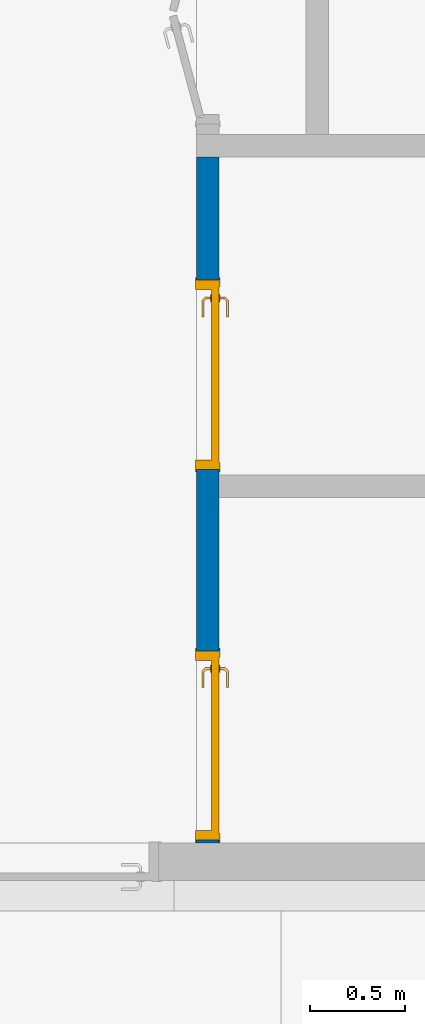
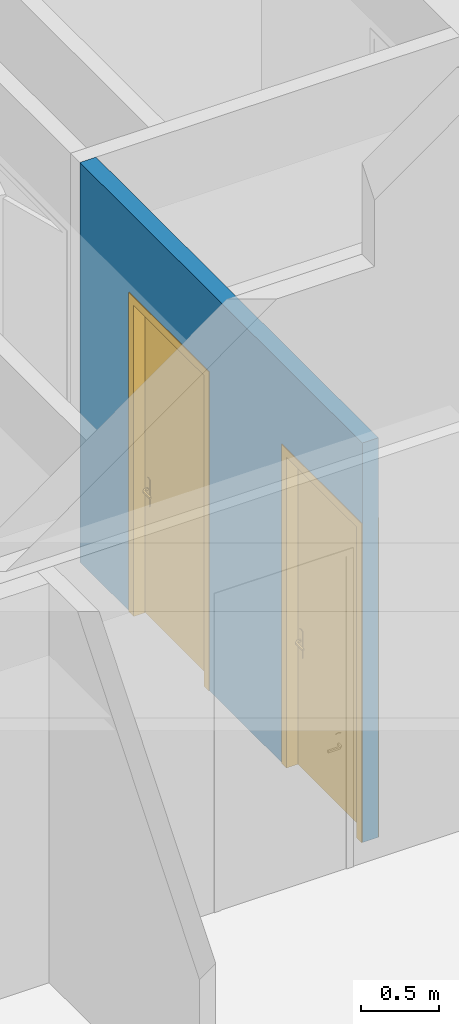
# One storey, part 85 of 240: 2 doors, 1 wall, 2 openings.
"""IFC2X3 building model written with IfcOpenShell, lengths in centimetres."""

from ifc_helpers import new_model, entity, si_unit, converted_unit, derived_unit, direction, frame, frame_2d, origin, place, context, subcontext, project, spatial, rectangle, extrude, faceted_brep, source, transform, mapped, material, material_list, layer, layer_set, layer_usage, type_object, type_shapes, element, fill, save


model = new_model("IFC2X3")

# Units and contexts
model_context = context("Model", 3, precision=0.001, world=origin(), true_north=direction((6.12303176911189e-17, 1.0)))
body_context = subcontext(model_context, "Body", "Model", "MODEL_VIEW")
ifc_project = project(units=[si_unit("LENGTHUNIT", "METRE", prefix="CENTI"), si_unit("AREAUNIT", "SQUARE_METRE"), si_unit("VOLUMEUNIT", "CUBIC_METRE"), converted_unit("PLANEANGLEUNIT", "DEGREE", entity("IfcRatioMeasure", 0.0174532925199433), si_unit("PLANEANGLEUNIT", "RADIAN"), dimensions=[0, 0, 0, 0, 0, 0, 0]), si_unit("MASSUNIT", "GRAM", prefix="KILO"), derived_unit("MASSDENSITYUNIT", [(si_unit("MASSUNIT", "GRAM", prefix="KILO"), 1), (si_unit("LENGTHUNIT", "METRE"), -3)]), si_unit("TIMEUNIT", "SECOND"), si_unit("FREQUENCYUNIT", "HERTZ"), si_unit("THERMODYNAMICTEMPERATUREUNIT", "DEGREE_CELSIUS"), derived_unit("THERMALTRANSMITTANCEUNIT", [(si_unit("MASSUNIT", "GRAM", prefix="KILO"), 1), (si_unit("THERMODYNAMICTEMPERATUREUNIT", "KELVIN"), -1), (si_unit("TIMEUNIT", "SECOND"), -3)]), derived_unit("VOLUMETRICFLOWRATEUNIT", [(si_unit("LENGTHUNIT", "METRE"), 3), (si_unit("TIMEUNIT", "SECOND"), -1)]), si_unit("ELECTRICCURRENTUNIT", "AMPERE"), si_unit("ELECTRICVOLTAGEUNIT", "VOLT"), si_unit("POWERUNIT", "WATT"), si_unit("FORCEUNIT", "NEWTON", prefix="KILO"), si_unit("ILLUMINANCEUNIT", "LUX"), si_unit("LUMINOUSFLUXUNIT", "LUMEN"), si_unit("LUMINOUSINTENSITYUNIT", "CANDELA"), derived_unit("USERDEFINED", [(si_unit("MASSUNIT", "GRAM", prefix="KILO"), -1), (si_unit("LENGTHUNIT", "METRE"), -2), (si_unit("TIMEUNIT", "SECOND"), 3), (si_unit("LUMINOUSFLUXUNIT", "LUMEN"), 1)]), derived_unit("LINEARVELOCITYUNIT", [(si_unit("LENGTHUNIT", "METRE"), 1), (si_unit("TIMEUNIT", "SECOND"), -1)]), si_unit("PRESSUREUNIT", "PASCAL"), derived_unit("USERDEFINED", [(si_unit("LENGTHUNIT", "METRE"), -2), (si_unit("MASSUNIT", "GRAM", prefix="KILO"), 1), (si_unit("TIMEUNIT", "SECOND"), -2)])], contexts=[model_context])

# Site, building, storey
site_placement = place(None, frame((-2781.94577612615, 7442.24238424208, 0.0)))
site = spatial("IfcSite", under=ifc_project, at=site_placement, Name="Default", CompositionType="ELEMENT")
building_placement = place(site_placement, origin())
building = spatial("IfcBuilding", under=site, at=building_placement, CompositionType="ELEMENT")
storey_placement = place(building_placement, origin())
storey = spatial("IfcBuildingStorey", under=building, at=storey_placement, Name="N00 - COO", CompositionType="ELEMENT", Elevation=0.0)

# Wall, openings, doors
ifc_material_1 = material(Name="01 - Enduit/Plâtre")
ifc_layer_1 = layer(ifc_material_1, 1.0)
ifc_material_2 = material(Name="Maçonnerie - Béton")
ifc_layer_2 = layer(ifc_material_2, 10.0)
ifc_layer_3 = layer(ifc_material_1, 1.0)
ifc_layer_set = layer_set([ifc_layer_1, ifc_layer_2, ifc_layer_3], Name="Mur de base:06 - cloisons - agglos10 + faïence 12cm")
ifc_layer_usage = layer_usage(ifc_layer_set, "AXIS2", "NEGATIVE", 6.0)
wall_type = type_object("IfcWallType", Name="Mur de base:06 - cloisons - agglos10 + faïence 12cm", PredefinedType="STANDARD", material=ifc_layer_set)
wall_placement = place(building_placement, frame((-10470.6130476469, -2990.07903364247, 0.0), z_axis=(0.0, 0.0, 1.0), x_axis=(0.0, -1.0, 0.0)))
wall = element("IfcWallStandardCase", 1, at=wall_placement, inside=storey, type_object=wall_type, material=ifc_layer_usage, Name="Mur de base:06 - cloisons - agglos10 + faïence 12cm", ObjectType="Mur de base:06 - cloisons - agglos10 + faïence 12cm", context=body_context, shape_type="SweptSolid", body=[
    extrude(rectangle(XDim=362.442772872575, YDim=12.0000000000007, at=frame_2d((181.221386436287, -2.8244073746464e-13), x_axis=(-1.0, 0.0))), origin(), (0.0, 0.0, 1.0), 313.0),
])
opening_1_placement = place(wall_placement, frame((65.0, -6.0, 0.0)))
opening_1 = element("IfcOpeningElement", 2, at=opening_1_placement, cuts=wall, Name="Int. Simple:PP simple (0.93m x 2.50m):1", ObjectType="Opening", context=body_context, shape_type="SweptSolid", body=[
    extrude(rectangle(XDim=248.500000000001, YDim=99.9999999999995, at=frame_2d((124.250000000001, 49.9999999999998), x_axis=(1.0, 0.0))), frame((0.0, 0.0, 0.0), z_axis=(0.0, 1.0, 0.0), x_axis=(0.0, 0.0, 1.0)), (0.0, 0.0, 1.0), 12.0),
])
opening_2_placement = place(wall_placement, frame((260.942772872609, -6.0, 0.0)))
opening_2 = element("IfcOpeningElement", 3, at=opening_2_placement, cuts=wall, Name="Int. Simple:PP simple (0.93m x 2.50m):1", ObjectType="Opening", context=body_context, shape_type="SweptSolid", body=[
    extrude(rectangle(XDim=248.500000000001, YDim=99.9999999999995, at=frame_2d((124.250000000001, 49.9999999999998), x_axis=(1.0, 0.0))), frame((0.0, 0.0, 0.0), z_axis=(0.0, 1.0, 0.0), x_axis=(0.0, 0.0, 1.0)), (0.0, 0.0, 1.0), 12.0),
])
ifc_material_3 = material(Name="Finition Peinture - Blanc satiné")
ifc_material_4 = material(Name="Bois - Panneau de porte")
ifc_material_5 = material(Name="Bois - Cadre de porte")
ifc_material_list_1 = material_list([ifc_material_3, ifc_material_4, ifc_material_5])
ifc_material_list_2 = material_list([ifc_material_3, ifc_material_4, ifc_material_5])
door_style = type_object("IfcDoorStyle", Name="PP simple (0.93m x 2.50m)", ConstructionType="NOTDEFINED", OperationType="SINGLE_SWING_RIGHT", ParameterTakesPrecedence=False, Sizeable=False, material=ifc_material_list_2)
shared_shape = source(origin(), body_context, "Body", "Brep", [
    faceted_brep([(99.5000000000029, -0.500000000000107, 87.0), (99.5000000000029, -0.500000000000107, 108.0), (98.535276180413, -0.500000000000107, 108.399601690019), (97.5000000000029, -0.500000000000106, 108.535898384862), (96.4647238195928, -0.500000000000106, 108.399601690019), (95.500000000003, -0.500000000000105, 108.0), (95.5000000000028, -0.500000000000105, 87.0), (96.4647238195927, -0.500000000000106, 86.6003983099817), (97.5000000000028, -0.500000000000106, 86.464101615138), (98.5352761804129, -0.500000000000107, 86.6003983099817), (99.5000000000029, 0.0, 108.0), (99.5000000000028, 0.0, 87.0), (98.5352761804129, 0.0, 86.6003983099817), (97.5000000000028, 0.0, 86.464101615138), (96.4647238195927, 0.0, 86.6003983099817), (95.5000000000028, 0.0, 87.0), (95.5000000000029, 0.0, 108.0), (96.4647238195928, 0.0, 108.399601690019), (97.5000000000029, 0.0, 108.535898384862), (98.535276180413, 0.0, 108.399601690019)], [[[0, 1, 2, 3, 4, 5, 6, 7, 8, 9]], [[10, 11, 12, 13, 14, 15, 16, 17, 18, 19]], [[9, 12, 11, 0]], [[8, 13, 12, 9]], [[7, 14, 13, 8]], [[7, 6, 15, 14]], [[15, 6, 5, 16]], [[4, 17, 16, 5]], [[3, 18, 17, 4]], [[2, 19, 18, 3]], [[2, 1, 10, 19]], [[11, 10, 1, 0]]]),
    faceted_brep([(99.5000000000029, 4.0, 87.0), (99.5000000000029, 4.0, 108.0), (98.535276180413, 4.0, 108.399601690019), (97.5000000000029, 4.0, 108.535898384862), (96.4647238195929, 4.0, 108.399601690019), (95.500000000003, 4.0, 108.0), (95.5000000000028, 4.0, 87.0), (96.4647238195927, 4.0, 86.6003983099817), (97.5000000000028, 4.0, 86.464101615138), (98.5352761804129, 4.0, 86.6003983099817), (97.5000000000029, 4.49999999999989, 108.535898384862), (98.535276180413, 4.49999999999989, 108.399601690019), (99.5000000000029, 4.49999999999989, 108.0), (99.5000000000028, 4.49999999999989, 87.0), (98.5352761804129, 4.49999999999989, 86.6003983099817), (97.5000000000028, 4.49999999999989, 86.464101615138), (96.4647238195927, 4.49999999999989, 86.6003983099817), (95.5000000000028, 4.49999999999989, 87.0), (95.500000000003, 4.49999999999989, 108.0), (96.4647238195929, 4.49999999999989, 108.399601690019)], [[[0, 1, 2, 3, 4, 5, 6, 7, 8, 9]], [[10, 11, 12, 13, 14, 15, 16, 17, 18, 19]], [[4, 19, 18, 5]], [[3, 10, 19, 4]], [[2, 11, 10, 3]], [[2, 1, 12, 11]], [[13, 12, 1, 0]], [[9, 14, 13, 0]], [[8, 15, 14, 9]], [[7, 16, 15, 8]], [[7, 6, 17, 16]], [[17, 6, 5, 18]]]),
    faceted_brep([(97.2974701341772, -0.500000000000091, 100.778044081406), (97.7025298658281, -0.500000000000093, 100.778044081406), (98.1000000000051, -0.500000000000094, 100.699999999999), (98.100000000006, -0.500000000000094, 99.2999999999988), (97.7025298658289, -0.500000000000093, 99.221955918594), (97.297470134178, -0.500000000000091, 99.2219559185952), (96.9000000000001, -0.500000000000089, 99.3000000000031), (96.9000000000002, -0.500000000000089, 100.7), (97.7025298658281, -3.10045754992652, 100.778044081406), (98.1000000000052, -3.26509507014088, 100.7), (97.2974701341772, -2.93267631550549, 100.778044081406), (95.9298602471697, -4.30028620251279, 100.778044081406), (96.0976414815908, -4.70534593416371, 100.778044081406), (96.9000000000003, -2.76803879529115, 100.7), (96.9000000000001, -2.76803879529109, 99.3000000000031), (97.297470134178, -2.93267631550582, 99.2219559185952), (97.7025298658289, -3.10045754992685, 99.221955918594), (96.0976414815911, -4.7053459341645, 99.221955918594), (95.9298602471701, -4.30028620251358, 99.2219559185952), (98.100000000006, -3.26509507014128, 99.2999999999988), (96.2622790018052, -5.10281606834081, 100.7), (95.7652227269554, -3.90281606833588, 100.7), (95.7652227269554, -3.90281606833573, 99.3000000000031), (96.2622790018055, -5.10281606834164, 99.2999999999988), (87.4981359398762, -5.10281606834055, 100.7), (87.4981359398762, -4.70534593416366, 100.778044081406), (87.4981359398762, -4.30028620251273, 100.778044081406), (87.4981359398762, -3.90281606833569, 100.699999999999), (87.4981359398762, -3.90281606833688, 99.3000000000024), (87.4981359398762, -4.30028620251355, 99.2219559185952), (87.4981359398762, -4.70534593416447, 99.221955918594), (87.4981359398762, -5.10281606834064, 99.2999999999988), (91.7139980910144, -4.5028160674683, 100.78786867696), (92.2692302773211, -5.1028160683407, 100.7), (91.6316793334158, -3.9028160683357, 100.7), (91.631679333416, -3.9028160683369, 99.3000000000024), (91.7139981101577, -4.50281607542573, 99.2121313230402), (92.2692310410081, -5.10281606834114, 99.2999999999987)], [[[0, 1, 2, 3, 4, 5, 6, 7]], [[2, 1, 8, 9]], [[1, 0, 10, 11, 12, 8]], [[0, 7, 13, 10]], [[14, 13, 7, 6]], [[5, 15, 14, 6]], [[5, 4, 16, 17, 18, 15]], [[3, 19, 16, 4]], [[9, 19, 3, 2]], [[9, 8, 12, 20]], [[10, 13, 21, 11]], [[22, 21, 13, 14]], [[14, 15, 18, 22]], [[16, 19, 23, 17]], [[20, 23, 19, 9]], [[24, 25, 26, 27, 28, 29, 30, 31]], [[32, 25, 33]], [[33, 25, 24]], [[33, 20, 12]], [[11, 34, 32]], [[34, 11, 21]], [[27, 26, 34]], [[32, 26, 25]], [[32, 34, 26]], [[32, 33, 12]], [[11, 32, 12]], [[21, 22, 35, 28, 27, 34]], [[36, 29, 35]], [[30, 36, 37]], [[18, 35, 22]], [[29, 28, 35]], [[30, 37, 31]], [[37, 17, 23]], [[36, 17, 37]], [[36, 18, 17]], [[36, 35, 18]], [[29, 36, 30]], [[23, 20, 33, 24, 31, 37]]]),
    faceted_brep([(97.2974701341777, 4.49999999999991, 99.2219559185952), (97.7025298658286, 4.49999999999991, 99.221955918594), (98.1000000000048, 4.4999999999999, 99.2999999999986), (98.1000000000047, 4.4999999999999, 100.7), (97.7025298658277, 4.49999999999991, 100.778044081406), (97.2974701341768, 4.49999999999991, 100.778044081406), (96.8999999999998, 4.49999999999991, 100.7), (96.900000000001, 4.49999999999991, 99.3000000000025), (96.8999999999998, 6.7485204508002, 100.7), (96.8999999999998, 6.74852045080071, 99.3000000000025), (97.2974701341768, 6.91315797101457, 100.778044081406), (97.7025298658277, 7.0809392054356, 100.778044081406), (96.0838906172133, 8.69957845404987, 100.778044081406), (95.9161093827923, 8.29451872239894, 100.778044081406), (98.1000000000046, 7.24557672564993, 100.7), (98.1000000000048, 7.24557672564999, 99.2999999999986), (97.7025298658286, 7.08093920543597, 99.221955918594), (97.2974701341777, 6.91315797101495, 99.2219559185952), (95.9161093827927, 8.29451872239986, 99.2219559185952), (96.0838906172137, 8.69957845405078, 99.221955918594), (95.751471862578, 7.89704858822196, 100.7), (95.7514718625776, 7.89704858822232, 99.3000000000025), (96.2485281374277, 9.09704858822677, 100.7), (96.2485281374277, 9.09704858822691, 99.2999999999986), (87.4954216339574, 8.29451872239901, 100.778044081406), (87.4954216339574, 8.69957845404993, 100.778044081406), (87.4954216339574, 9.09704858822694, 100.7), (87.4954216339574, 9.09704858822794, 99.2999999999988), (87.4954216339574, 8.6995784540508, 99.221955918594), (87.4954216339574, 8.29451872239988, 99.2219559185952), (87.4954216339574, 7.89704858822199, 99.3000000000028), (87.4954216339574, 7.89704858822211, 100.7), (91.6234467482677, 7.89704858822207, 100.7), (91.6234479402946, 7.89704858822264, 99.3000000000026), (91.7057655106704, 8.49704858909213, 100.78786867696), (92.255479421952, 9.09704858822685, 100.7), (92.2554795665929, 9.09704858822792, 99.2999999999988), (91.7057654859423, 8.49704858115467, 99.2121313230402)], [[[0, 1, 2, 3, 4, 5, 6, 7]], [[8, 9, 7, 6]], [[5, 10, 8, 6]], [[5, 4, 11, 12, 13, 10]], [[3, 14, 11, 4]], [[14, 3, 2, 15]], [[2, 1, 16, 15]], [[1, 0, 17, 18, 19, 16]], [[0, 7, 9, 17]], [[20, 21, 9, 8]], [[8, 10, 13, 20]], [[14, 22, 12, 11]], [[23, 22, 14, 15]], [[15, 16, 19, 23]], [[17, 9, 21, 18]], [[24, 25, 26, 27, 28, 29, 30, 31]], [[21, 20, 32, 31, 30, 33]], [[34, 24, 32]], [[25, 34, 35]], [[13, 32, 20]], [[24, 31, 32]], [[25, 35, 26]], [[35, 12, 22]], [[34, 12, 35]], [[34, 13, 12]], [[34, 32, 13]], [[24, 34, 25]], [[22, 23, 36, 27, 26, 35]], [[37, 28, 36]], [[36, 28, 27]], [[36, 23, 19]], [[18, 33, 37]], [[33, 18, 21]], [[30, 29, 33]], [[37, 29, 28]], [[37, 33, 29]], [[37, 36, 19]], [[18, 37, 19]]]),
    faceted_brep([(103.500000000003, 4.0, 245.0), (103.500000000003, 4.0, 0.0), (10.5000000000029, 4.0, 0.0), (10.5000000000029, 4.0, 245.0), (103.500000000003, 0.0, 245.0), (10.5000000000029, 0.0, 245.0), (10.5000000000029, 0.0, 0.0), (103.500000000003, 0.0, 0.0)], [[[0, 1, 2, 3]], [[4, 5, 6, 7]], [[3, 5, 4, 0]], [[2, 6, 5, 3]], [[1, 7, 6, 2]], [[0, 4, 7, 1]]]),
    faceted_brep([(107.0, 12.0, 0.0), (107.0, 0.0, 0.0), (108.500000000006, 0.0, 0.0), (108.500000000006, -0.500000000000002, 0.0), (103.500000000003, -0.500000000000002, 0.0), (103.500000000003, 4.0, 0.0), (102.0, 4.0, 0.0), (102.0, 12.5000000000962, 0.0), (108.500000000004, 12.5000000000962, 0.0), (108.500000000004, 12.0, 0.0), (107.0, 12.0, 248.500000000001), (107.0, 0.0, 248.500000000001), (108.500000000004, 12.0, 250.0), (5.50000000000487, 12.0, 250.0), (5.50000000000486, 12.0, 0.0), (7.0, 12.0, 0.0), (7.0, 12.0, 248.500000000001), (102.0, 4.0, 243.5), (102.0, 12.5000000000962, 243.5), (103.500000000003, 4.0, 245.0), (10.5000000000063, 4.0, 245.0), (10.5000000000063, 4.0, 0.0), (12.0, 4.0, 0.0), (12.0, 4.0, 243.5), (7.0, 0.0, 0.0), (7.0, 0.0, 248.500000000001), (5.50000000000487, 12.5000000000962, 0.0), (12.0, 12.5000000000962, 0.0), (10.5000000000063, -0.500000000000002, 0.0), (5.5000000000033, -0.500000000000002, 0.0), (5.5000000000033, 0.0, 0.0), (12.0, 12.5000000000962, 243.5), (103.500000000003, -0.500000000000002, 245.0), (108.500000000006, -0.500000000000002, 250.0), (5.5000000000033, -0.500000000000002, 250.0), (10.5000000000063, -0.500000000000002, 245.0), (108.500000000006, 0.0, 250.0), (5.50000000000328, 0.0, 250.0), (108.500000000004, 12.5000000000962, 250.0), (5.50000000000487, 12.5000000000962, 250.0)], [[[0, 1, 2, 3, 4, 5, 6, 7, 8, 9]], [[0, 10, 11, 1]], [[9, 12, 13, 14, 15, 16, 10, 0]], [[7, 6, 17, 18]], [[5, 19, 20, 21, 22, 23, 17, 6]], [[16, 15, 24, 25]], [[15, 14, 26, 27, 22, 21, 28, 29, 30, 24]], [[23, 22, 27, 31]], [[10, 16, 25, 11]], [[17, 23, 31, 18]], [[5, 4, 32, 19]], [[3, 33, 34, 29, 28, 35, 32, 4]], [[2, 36, 33, 3]], [[1, 11, 25, 24, 30, 37, 36, 2]], [[8, 38, 12, 9]], [[7, 18, 31, 27, 26, 39, 38, 8]], [[35, 28, 21, 20]], [[37, 30, 29, 34]], [[39, 26, 14, 13]], [[32, 35, 20, 19]], [[36, 37, 34, 33]], [[38, 39, 13, 12]]]),
])
type_shapes(door_style, [shared_shape])
door_1_placement = place(opening_1_placement, frame((107.0, 12.0, 0.0), z_axis=(0.0, 0.0, 1.0), x_axis=(-1.0, 0.0, 0.0)))
door_1 = element("IfcDoor", 4, at=door_1_placement, inside=storey, type_object=door_style, material=ifc_material_list_1, Name="Int. Simple:PP simple (0.93m x 2.50m)", ObjectType="Int. Simple:PP simple (0.93m x 2.50m)", OverallHeight=248.500000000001, OverallWidth=99.9999999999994, context=body_context, shape_type="MappedRepresentation", body=[
    mapped(shared_shape, transform((0.0, 0.0, 0.0), scale=1.0)),
])
fill(opening_1, door_1)
ifc_material_list_3 = material_list([ifc_material_3, ifc_material_4, ifc_material_5])
door_2_placement = place(opening_2_placement, frame((107.0, 12.0, 0.0), z_axis=(0.0, 0.0, 1.0), x_axis=(-1.0, 0.0, 0.0)))
door_2 = element("IfcDoor", 5, at=door_2_placement, inside=storey, type_object=door_style, material=ifc_material_list_3, Name="Int. Simple:PP simple (0.93m x 2.50m)", ObjectType="Int. Simple:PP simple (0.93m x 2.50m)", OverallHeight=248.500000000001, OverallWidth=99.9999999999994, context=body_context, shape_type="MappedRepresentation", body=[
    mapped(shared_shape, transform((0.0, 0.0, 0.0), scale=1.0)),
])
fill(opening_2, door_2)

save(model, "model.ifc")
